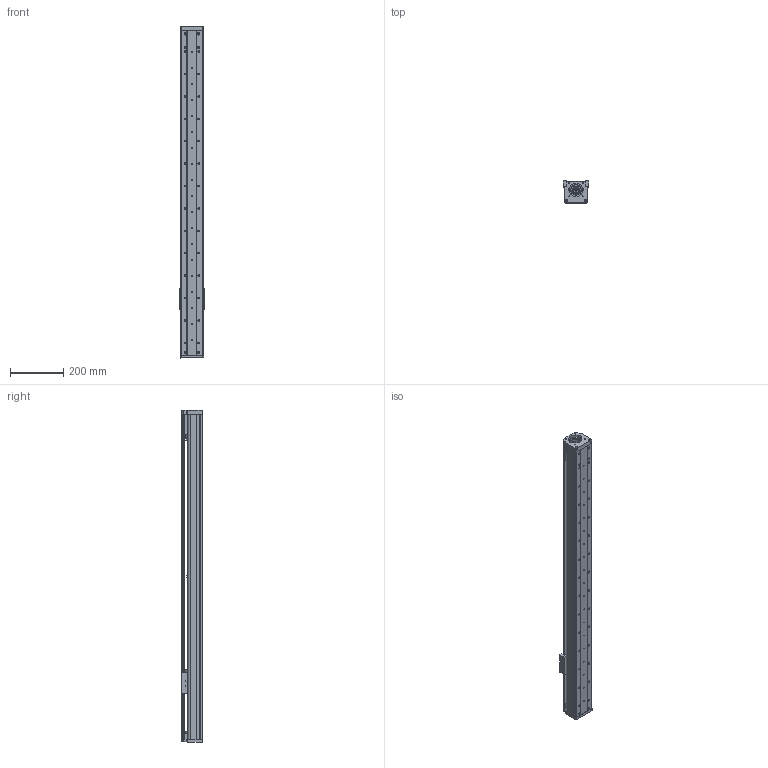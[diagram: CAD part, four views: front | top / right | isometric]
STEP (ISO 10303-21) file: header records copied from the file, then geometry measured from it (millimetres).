
FILE_DESCRIPTION (( 'STEP AP203' ), '1' );
FILE_NAME ('CF86-P1000.STEP', '2016-02-22T06:05:10', ( 'Sky123.Org' ), ( 'Sky123.Org' ), 'SwSTEP 2.0', 'SolidWorks 2015', '' );
FILE_SCHEMA (( 'CONFIG_CONTROL_DESIGN' ));
Length unit declared in the file: millimetre
Products named in the file (18): 癹弇羲壽; 滅袉蝶菜; 86-60侜督萇儂釱; 01 86嘐隅釱; 86耜啣; CF86-P1000; 02 86盓傅釱; 86-P420裔啣; angular contact ball bearings gb_Rolling bearings S7001 GB 292-94; 86-P420臏倰第; 95粣創裔啣; EGR15-P420絳寢; 坶踡蹟譫M12-1; EGW15CA賑輸; deep groove ball bearings gb_Rolling bearings 6001 GB 276-94; SFU1610-P420幗紩佪裝; CF86賑輸; SFU1610ĸ
Assembly tree (19 placements, depth 2):
  CF86-P1000
    86耜啣
    86-P420裔啣
    86-P420臏倰第
    EGR15-P420絳寢
    EGW15CA賑輸
    SFU1610-P420幗紩佪裝
    SFU1610ĸ
    滅袉蝶菜  x2
    01 86嘐隅釱
    02 86盓傅釱
    angular contact ball bearings gb_Rolling bearings S7001 GB 292-94  x2
    95粣創裔啣
    坶踡蹟譫M12-1
    deep groove ball bearings gb_Rolling bearings 6001 GB 276-94
    CF86賑輸
    癹弇羲壽
    86-60侜督萇儂釱
Bounding box: 94 x 82.35 x 1245 mm (x, y, z)
Volume: 2867091.3 mm3; surface area: 1035313 mm2
Topology: 19 solids, 19 shells, 1370 faces, 4290 edges, 2867 vertices
Faces by surface type: cylinder 742, plane 377, torus 159, sphere 84, bspline 4, cone 4
Entity records: 73012 total; most frequent: CARTESIAN_POINT 38284, ORIENTED_EDGE 7224, DIRECTION 6652, EDGE_CURVE 3612, AXIS2_PLACEMENT_3D 2632, VERTEX_POINT 2410, EDGE_LOOP 1572, VECTOR 1388
